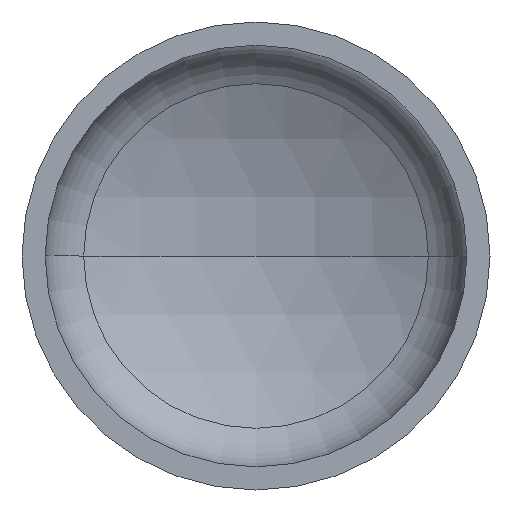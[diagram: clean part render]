
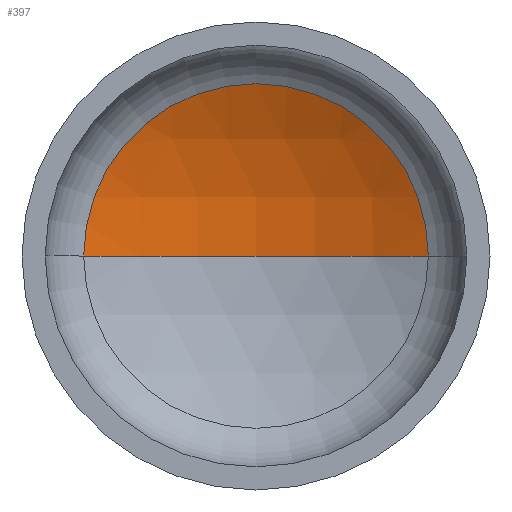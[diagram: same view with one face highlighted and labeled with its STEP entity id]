
A CAD part, front view. The second image highlights one B-rep face of the part: STEP entity #397.
In plain terms, the highlighted spherical face has radius 1520 mm.
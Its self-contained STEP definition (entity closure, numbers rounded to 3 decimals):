
#6 = AXIS2_PLACEMENT_3D ( 'NONE', #167, #344, #189 ) ;
#10 = ORIENTED_EDGE ( 'NONE', *, *, #136, .T. ) ;
#12 = VERTEX_POINT ( 'NONE', #351 ) ;
#54 = VERTEX_POINT ( 'NONE', #302 ) ;
#58 = AXIS2_PLACEMENT_3D ( 'NONE', #120, #118, #399 ) ;
#60 = AXIS2_PLACEMENT_3D ( 'NONE', #276, #286, #365 ) ;
#73 = ORIENTED_EDGE ( 'NONE', *, *, #134, .T. ) ;
#80 = ORIENTED_EDGE ( 'NONE', *, *, #343, .F. ) ;
#83 = VERTEX_POINT ( 'NONE', #313 ) ;
#93 = EDGE_LOOP ( 'NONE', ( #80, #10, #73 ) ) ;
#118 = DIRECTION ( 'NONE',  ( 0., 0., -1. ) ) ;
#120 = CARTESIAN_POINT ( 'NONE',  ( 0., -992.037, 0. ) ) ;
#134 = EDGE_CURVE ( 'NONE', #83, #12, #249, .T. ) ;
#136 = EDGE_CURVE ( 'NONE', #54, #83, #308, .T. ) ;
#167 = CARTESIAN_POINT ( 'NONE',  ( 0., -992.037, 0. ) ) ;
#182 = FACE_OUTER_BOUND ( 'NONE', #93, .T. ) ;
#189 = DIRECTION ( 'NONE',  ( 1., 0., 0. ) ) ;
#244 = DIRECTION ( 'NONE',  ( -1., 0., 0. ) ) ;
#249 = CIRCLE ( 'NONE', #60, 699.447 ) ;
#276 = CARTESIAN_POINT ( 'NONE',  ( 0., 357.472, 0. ) ) ;
#286 = DIRECTION ( 'NONE',  ( 0., -1., 0. ) ) ;
#291 = CARTESIAN_POINT ( 'NONE',  ( 0., -992.037, 0. ) ) ;
#302 = CARTESIAN_POINT ( 'NONE',  ( 0., 527.963, 0. ) ) ;
#308 = CIRCLE ( 'NONE', #58, 1520. ) ;
#313 = CARTESIAN_POINT ( 'NONE',  ( 699.447, 357.472, 0. ) ) ;
#343 = EDGE_CURVE ( 'NONE', #54, #12, #404, .T. ) ;
#344 = DIRECTION ( 'NONE',  ( 0., 0., 1. ) ) ;
#351 = CARTESIAN_POINT ( 'NONE',  ( -699.447, 357.472, 0. ) ) ;
#365 = DIRECTION ( 'NONE',  ( 1., 0., 0. ) ) ;
#381 = SPHERICAL_SURFACE ( 'NONE', #400, 1520. ) ;
#390 = DIRECTION ( 'NONE',  ( 0., 0., -1. ) ) ;
#397 = ADVANCED_FACE ( 'NONE', ( #182 ), #381, .F. ) ;
#399 = DIRECTION ( 'NONE',  ( -1., 0., 0. ) ) ;
#400 = AXIS2_PLACEMENT_3D ( 'NONE', #291, #390, #244 ) ;
#404 = CIRCLE ( 'NONE', #6, 1520. ) ;
